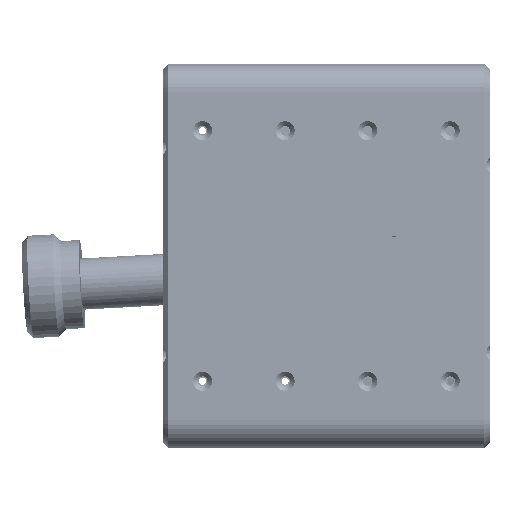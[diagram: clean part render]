
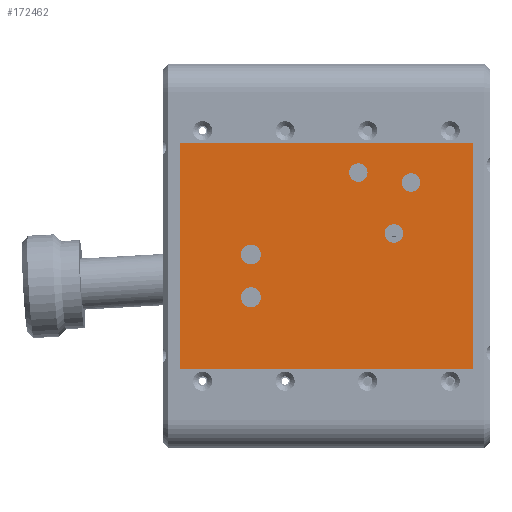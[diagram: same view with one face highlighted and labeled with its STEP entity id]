
A CAD part, left-side view. The second image highlights one B-rep face of the part: STEP entity #172462.
In plain terms, the highlighted planar face has unit normal (-1, 0, 0) as drawn and (0, 0, 1) by its records, which use the part's own axes.
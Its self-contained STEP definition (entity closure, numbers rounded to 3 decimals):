
#143 = LINE ( 'NONE', #79583, #86434 ) ;
#2729 = CARTESIAN_POINT ( 'NONE',  ( 0., 0., 8. ) ) ;
#2925 = EDGE_LOOP ( 'NONE', ( #167100, #81428 ) ) ;
#3905 = CARTESIAN_POINT ( 'NONE',  ( 7.5, 78., 8. ) ) ;
#4143 = ORIENTED_EDGE ( 'NONE', *, *, #75146, .F. ) ;
#4615 = EDGE_CURVE ( 'NONE', #64372, #167370, #8469, .T. ) ;
#4862 = FACE_OUTER_BOUND ( 'NONE', #61357, .T. ) ;
#4982 = DIRECTION ( 'NONE',  ( 1., 0., 0. ) ) ;
#5488 = VERTEX_POINT ( 'NONE', #104368 ) ;
#7358 = EDGE_CURVE ( 'NONE', #5488, #73011, #17093, .T. ) ;
#8190 = CARTESIAN_POINT ( 'NONE',  ( 11., 78., 8. ) ) ;
#8469 = CIRCLE ( 'NONE', #205090, 3.25 ) ;
#11006 = CIRCLE ( 'NONE', #190142, 3.25 ) ;
#11594 = ORIENTED_EDGE ( 'NONE', *, *, #29085, .F. ) ;
#17093 = LINE ( 'NONE', #84228, #56374 ) ;
#17635 = CIRCLE ( 'NONE', #49318, 3.25 ) ;
#20032 = CIRCLE ( 'NONE', #23500, 3.5 ) ;
#20291 = DIRECTION ( 'NONE',  ( 1., 0., 0. ) ) ;
#20493 = CARTESIAN_POINT ( 'NONE',  ( 32.797, 21.731, 8. ) ) ;
#21949 = EDGE_LOOP ( 'NONE', ( #4143, #11594 ) ) ;
#23500 = AXIS2_PLACEMENT_3D ( 'NONE', #216079, #132516, #199580 ) ;
#23612 = PLANE ( 'NONE',  #83741 ) ;
#24723 = EDGE_CURVE ( 'NONE', #5488, #195631, #55252, .T. ) ;
#25435 = CARTESIAN_POINT ( 'NONE',  ( -44.5, 0., 8. ) ) ;
#28111 = VERTEX_POINT ( 'NONE', #126625 ) ;
#29085 = EDGE_CURVE ( 'NONE', #188831, #87430, #17635, .T. ) ;
#29110 = DIRECTION ( 'NONE',  ( 1., 0., 0. ) ) ;
#30257 = CARTESIAN_POINT ( 'NONE',  ( 46.8, 103., 8. ) ) ;
#34585 = DIRECTION ( 'NONE',  ( 0., 0., 1. ) ) ;
#35616 = DIRECTION ( 'NONE',  ( 1., 0., 0. ) ) ;
#36178 = EDGE_LOOP ( 'NONE', ( #134591, #163752 ) ) ;
#36853 = CARTESIAN_POINT ( 'NONE',  ( -4., 78., 8. ) ) ;
#37103 = EDGE_CURVE ( 'NONE', #28111, #153211, #203751, .T. ) ;
#37641 = DIRECTION ( 'NONE',  ( 1., 0., 0. ) ) ;
#38060 = FACE_BOUND ( 'NONE', #2925, .T. ) ;
#44598 = DIRECTION ( 'NONE',  ( 0., 0., 1. ) ) ;
#46661 = DIRECTION ( 'NONE',  ( 0., 1., 0. ) ) ;
#47028 = CARTESIAN_POINT ( 'NONE',  ( 18.182, 27.8, 8. ) ) ;
#49318 = AXIS2_PLACEMENT_3D ( 'NONE', #199445, #44598, #29110 ) ;
#50188 = EDGE_LOOP ( 'NONE', ( #76497, #187227 ) ) ;
#55252 = LINE ( 'NONE', #25435, #157218 ) ;
#56107 = CARTESIAN_POINT ( 'NONE',  ( 36.047, 21.731, 8. ) ) ;
#56374 = VECTOR ( 'NONE', #46661, 1000. ) ;
#59371 = DIRECTION ( 'NONE',  ( 0., 0., 1. ) ) ;
#59728 = CARTESIAN_POINT ( 'NONE',  ( 14.932, 27.8, 8. ) ) ;
#61357 = EDGE_LOOP ( 'NONE', ( #186062, #70233, #115037, #195011 ) ) ;
#63631 = CIRCLE ( 'NONE', #211145, 3.5 ) ;
#64372 = VERTEX_POINT ( 'NONE', #87503 ) ;
#66319 = DIRECTION ( 'NONE',  ( 0., -1., 0. ) ) ;
#67756 = DIRECTION ( 'NONE',  ( 0., 0., 1. ) ) ;
#69853 = EDGE_CURVE ( 'NONE', #153211, #28111, #63631, .T. ) ;
#70233 = ORIENTED_EDGE ( 'NONE', *, *, #24723, .T. ) ;
#72443 = CARTESIAN_POINT ( 'NONE',  ( 39.571, 40.266, 8. ) ) ;
#72763 = DIRECTION ( 'NONE',  ( 0., 0., 1. ) ) ;
#73011 = VERTEX_POINT ( 'NONE', #159269 ) ;
#73919 = AXIS2_PLACEMENT_3D ( 'NONE', #119111, #186214, #35616 ) ;
#75146 = EDGE_CURVE ( 'NONE', #87430, #188831, #11006, .T. ) ;
#76497 = ORIENTED_EDGE ( 'NONE', *, *, #160971, .F. ) ;
#77161 = VERTEX_POINT ( 'NONE', #30257 ) ;
#78071 = EDGE_CURVE ( 'NONE', #124995, #148710, #95941, .T. ) ;
#79197 = EDGE_LOOP ( 'NONE', ( #93792, #145124 ) ) ;
#79583 = CARTESIAN_POINT ( 'NONE',  ( 46.8, 0., 8. ) ) ;
#81428 = ORIENTED_EDGE ( 'NONE', *, *, #190317, .F. ) ;
#82510 = CARTESIAN_POINT ( 'NONE',  ( 58.5, 103., 8. ) ) ;
#83741 = AXIS2_PLACEMENT_3D ( 'NONE', #2729, #153452, #157779 ) ;
#84228 = CARTESIAN_POINT ( 'NONE',  ( -32.8, 103., 8. ) ) ;
#85298 = CARTESIAN_POINT ( 'NONE',  ( 33.071, 40.266, 8. ) ) ;
#86434 = VECTOR ( 'NONE', #66319, 1000. ) ;
#87430 = VERTEX_POINT ( 'NONE', #72443 ) ;
#87503 = CARTESIAN_POINT ( 'NONE',  ( 11.682, 27.8, 8. ) ) ;
#92969 = CARTESIAN_POINT ( 'NONE',  ( 36.321, 40.266, 8. ) ) ;
#93792 = ORIENTED_EDGE ( 'NONE', *, *, #121402, .F. ) ;
#95941 = CIRCLE ( 'NONE', #169636, 3.25 ) ;
#104368 = CARTESIAN_POINT ( 'NONE',  ( -32.8, 0., 8. ) ) ;
#106863 = DIRECTION ( 'NONE',  ( 0., 0., 1. ) ) ;
#107149 = FACE_BOUND ( 'NONE', #21949, .T. ) ;
#111279 = FACE_BOUND ( 'NONE', #79197, .T. ) ;
#115037 = ORIENTED_EDGE ( 'NONE', *, *, #134073, .F. ) ;
#118092 = DIRECTION ( 'NONE',  ( 1., 0., 0. ) ) ;
#118763 = LINE ( 'NONE', #82510, #158278 ) ;
#119111 = CARTESIAN_POINT ( 'NONE',  ( 32.797, 21.731, 8. ) ) ;
#120049 = VERTEX_POINT ( 'NONE', #215353 ) ;
#121402 = EDGE_CURVE ( 'NONE', #124594, #120049, #20032, .T. ) ;
#121667 = DIRECTION ( 'NONE',  ( 1., 0., 0. ) ) ;
#123844 = DIRECTION ( 'NONE',  ( 0., 0., 1. ) ) ;
#124594 = VERTEX_POINT ( 'NONE', #36853 ) ;
#124803 = EDGE_CURVE ( 'NONE', #77161, #73011, #118763, .T. ) ;
#124995 = VERTEX_POINT ( 'NONE', #56107 ) ;
#126518 = CIRCLE ( 'NONE', #73919, 3.25 ) ;
#126625 = CARTESIAN_POINT ( 'NONE',  ( 4., 78., 8. ) ) ;
#130700 = CARTESIAN_POINT ( 'NONE',  ( 14.932, 27.8, 8. ) ) ;
#132516 = DIRECTION ( 'NONE',  ( 0., 0., 1. ) ) ;
#134073 = EDGE_CURVE ( 'NONE', #77161, #195631, #143, .T. ) ;
#134591 = ORIENTED_EDGE ( 'NONE', *, *, #69853, .F. ) ;
#140249 = EDGE_CURVE ( 'NONE', #120049, #124594, #193323, .T. ) ;
#141334 = FACE_BOUND ( 'NONE', #50188, .T. ) ;
#144894 = CIRCLE ( 'NONE', #194015, 3.25 ) ;
#145124 = ORIENTED_EDGE ( 'NONE', *, *, #140249, .F. ) ;
#146130 = DIRECTION ( 'NONE',  ( 1., 0., 0. ) ) ;
#148710 = VERTEX_POINT ( 'NONE', #168095 ) ;
#151226 = CARTESIAN_POINT ( 'NONE',  ( -7.5, 78., 8. ) ) ;
#153211 = VERTEX_POINT ( 'NONE', #8190 ) ;
#153452 = DIRECTION ( 'NONE',  ( 0., 0., 1. ) ) ;
#154144 = CARTESIAN_POINT ( 'NONE',  ( 7.5, 78., 8. ) ) ;
#157218 = VECTOR ( 'NONE', #172783, 1000. ) ;
#157779 = DIRECTION ( 'NONE',  ( 1., 0., 0. ) ) ;
#158278 = VECTOR ( 'NONE', #202329, 1000. ) ;
#159269 = CARTESIAN_POINT ( 'NONE',  ( -32.8, 103., 8. ) ) ;
#160971 = EDGE_CURVE ( 'NONE', #167370, #64372, #144894, .T. ) ;
#163752 = ORIENTED_EDGE ( 'NONE', *, *, #37103, .F. ) ;
#167100 = ORIENTED_EDGE ( 'NONE', *, *, #78071, .F. ) ;
#167370 = VERTEX_POINT ( 'NONE', #47028 ) ;
#168095 = CARTESIAN_POINT ( 'NONE',  ( 29.547, 21.731, 8. ) ) ;
#169636 = AXIS2_PLACEMENT_3D ( 'NONE', #20493, #189805, #4982 ) ;
#172462 = ADVANCED_FACE ( 'NONE', ( #107149, #38060, #141334, #174253, #111279, #4862 ), #23612, .T. ) ;
#172783 = DIRECTION ( 'NONE',  ( 1., 0., 0. ) ) ;
#174253 = FACE_BOUND ( 'NONE', #36178, .T. ) ;
#182771 = AXIS2_PLACEMENT_3D ( 'NONE', #151226, #67756, #20291 ) ;
#183231 = CARTESIAN_POINT ( 'NONE',  ( 46.8, 0., 8. ) ) ;
#186062 = ORIENTED_EDGE ( 'NONE', *, *, #7358, .F. ) ;
#186214 = DIRECTION ( 'NONE',  ( 0., 0., 1. ) ) ;
#187227 = ORIENTED_EDGE ( 'NONE', *, *, #4615, .F. ) ;
#188831 = VERTEX_POINT ( 'NONE', #85298 ) ;
#189805 = DIRECTION ( 'NONE',  ( 0., 0., 1. ) ) ;
#190142 = AXIS2_PLACEMENT_3D ( 'NONE', #92969, #34585, #118092 ) ;
#190317 = EDGE_CURVE ( 'NONE', #148710, #124995, #126518, .T. ) ;
#193312 = AXIS2_PLACEMENT_3D ( 'NONE', #154144, #72763, #37641 ) ;
#193323 = CIRCLE ( 'NONE', #182771, 3.5 ) ;
#194015 = AXIS2_PLACEMENT_3D ( 'NONE', #59728, #106863, #208094 ) ;
#195011 = ORIENTED_EDGE ( 'NONE', *, *, #124803, .T. ) ;
#195631 = VERTEX_POINT ( 'NONE', #183231 ) ;
#199445 = CARTESIAN_POINT ( 'NONE',  ( 36.321, 40.266, 8. ) ) ;
#199580 = DIRECTION ( 'NONE',  ( 1., 0., 0. ) ) ;
#202329 = DIRECTION ( 'NONE',  ( -1., 0., 0. ) ) ;
#203751 = CIRCLE ( 'NONE', #193312, 3.5 ) ;
#205090 = AXIS2_PLACEMENT_3D ( 'NONE', #130700, #59371, #146130 ) ;
#208094 = DIRECTION ( 'NONE',  ( 1., 0., 0. ) ) ;
#211145 = AXIS2_PLACEMENT_3D ( 'NONE', #3905, #123844, #121667 ) ;
#215353 = CARTESIAN_POINT ( 'NONE',  ( -11., 78., 8. ) ) ;
#216079 = CARTESIAN_POINT ( 'NONE',  ( -7.5, 78., 8. ) ) ;
